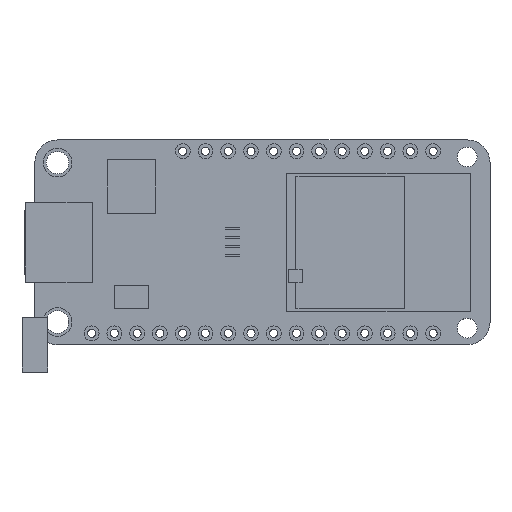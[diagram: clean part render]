
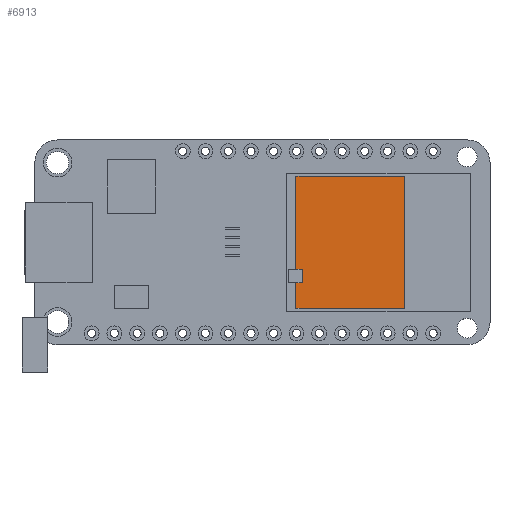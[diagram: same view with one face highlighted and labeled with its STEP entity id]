
A CAD part, top view. The second image highlights one B-rep face of the part: STEP entity #6913.
In plain terms, the highlighted planar face has unit normal (0, 0, 1).
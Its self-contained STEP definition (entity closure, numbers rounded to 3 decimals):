
#6784 = VERTEX_POINT('',#6785);
#6785 = CARTESIAN_POINT('',(29.15,4.08,3.7));
#6800 = VERTEX_POINT('',#6801);
#6801 = CARTESIAN_POINT('',(29.15,18.78,3.7));
#6807 = EDGE_CURVE('',#6784,#6800,#6808,.T.);
#6808 = LINE('',#6809,#6810);
#6809 = CARTESIAN_POINT('',(29.15,4.08,3.7));
#6810 = VECTOR('',#6811,1.);
#6811 = DIRECTION('',(-0.,1.,0.));
#6824 = VERTEX_POINT('',#6825);
#6825 = CARTESIAN_POINT('',(41.25,4.08,3.7));
#6840 = VERTEX_POINT('',#6841);
#6841 = CARTESIAN_POINT('',(41.25,18.78,3.7));
#6847 = EDGE_CURVE('',#6824,#6840,#6848,.T.);
#6848 = LINE('',#6849,#6850);
#6849 = CARTESIAN_POINT('',(41.25,4.08,3.7));
#6850 = VECTOR('',#6851,1.);
#6851 = DIRECTION('',(-0.,1.,0.));
#6868 = EDGE_CURVE('',#6784,#6824,#6869,.T.);
#6869 = LINE('',#6870,#6871);
#6870 = CARTESIAN_POINT('',(29.15,4.08,3.7));
#6871 = VECTOR('',#6872,1.);
#6872 = DIRECTION('',(1.,0.,-0.));
#6890 = EDGE_CURVE('',#6800,#6840,#6891,.T.);
#6891 = LINE('',#6892,#6893);
#6892 = CARTESIAN_POINT('',(29.15,18.78,3.7));
#6893 = VECTOR('',#6894,1.);
#6894 = DIRECTION('',(1.,0.,-0.));
#6913 = ADVANCED_FACE('',(#6914),#6920,.T.);
#6914 = FACE_BOUND('',#6915,.T.);
#6915 = EDGE_LOOP('',(#6916,#6917,#6918,#6919));
#6916 = ORIENTED_EDGE('',*,*,#6807,.F.);
#6917 = ORIENTED_EDGE('',*,*,#6868,.T.);
#6918 = ORIENTED_EDGE('',*,*,#6847,.T.);
#6919 = ORIENTED_EDGE('',*,*,#6890,.F.);
#6920 = PLANE('',#6921);
#6921 = AXIS2_PLACEMENT_3D('',#6922,#6923,#6924);
#6922 = CARTESIAN_POINT('',(29.15,4.08,3.7));
#6923 = DIRECTION('',(0.,0.,1.));
#6924 = DIRECTION('',(1.,0.,-0.));
